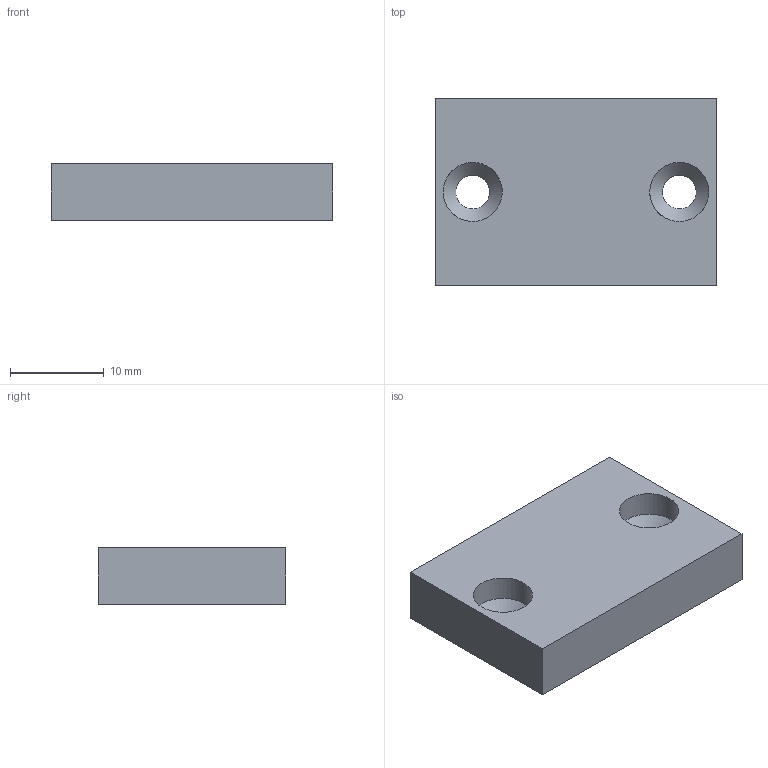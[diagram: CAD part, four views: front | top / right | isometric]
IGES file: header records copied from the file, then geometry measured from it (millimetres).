
Global section: file name: 64.06; native system: Autodesk Inventor 2014; preprocessor: unknown; author: APto; date: 20160506.090805; units: millimetre
Bounding box: 30 x 20 x 6 mm (x, y, z)
Volume: 3340.8 mm3; surface area: 1926.9 mm2
Topology: 1 solids, 1 shells, 12 faces, 32 edges, 22 vertices
Faces by surface type: bspline 12
